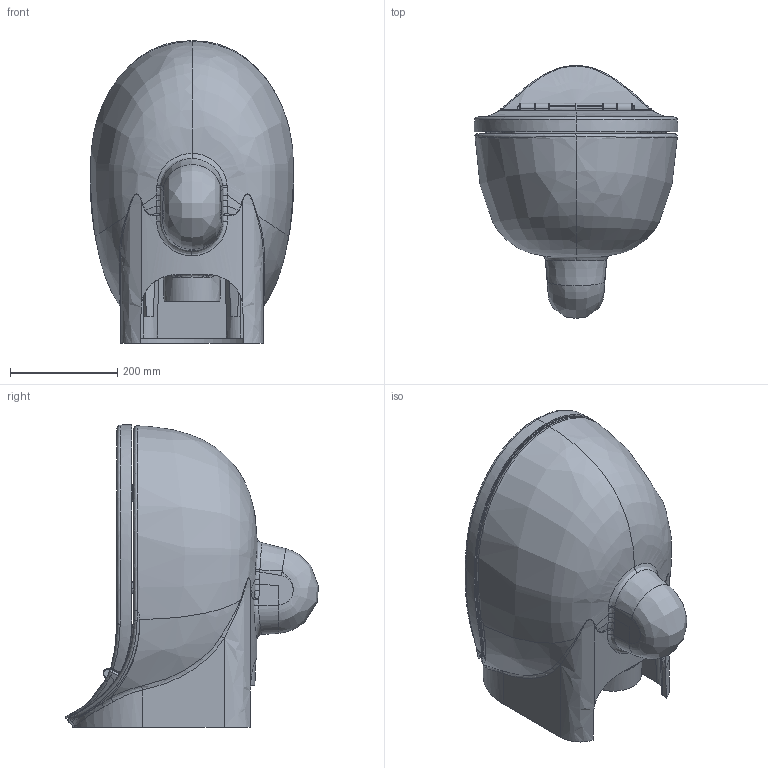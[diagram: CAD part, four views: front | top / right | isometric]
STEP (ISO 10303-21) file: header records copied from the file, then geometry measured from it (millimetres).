
FILE_DESCRIPTION (( 'STEP AP203' ), '1' );
FILE_NAME ('FG321.STEP', '2022-04-13T07:17:07', ( '' ), ( '' ), 'SwSTEP 2.0', 'SolidWorks 2021', '' );
FILE_SCHEMA (( 'CONFIG_CONTROL_DESIGN' ));
Products named in the file (1): FG321
Bounding box: 381 x 473 x 565.52 mm (x, y, z)
Volume: 15809759.1 mm3; surface area: 2136602.7 mm2
Topology: 29 solids, 34 shells, 1764 faces, 4398 edges, 2712 vertices
Faces by surface type: bspline 915, plane 374, cylinder 305, torus 104, cone 62, sphere 4
Entity records: 196056 total; most frequent: CARTESIAN_POINT 161697, ORIENTED_EDGE 8688, DIRECTION 5001, EDGE_CURVE 4344, VERTEX_POINT 2710, AXIS2_PLACEMENT_3D 1980, EDGE_LOOP 1858, FACE_OUTER_BOUND 1764
